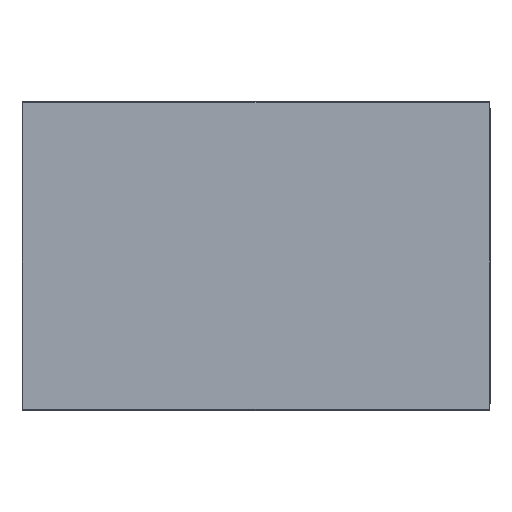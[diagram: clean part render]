
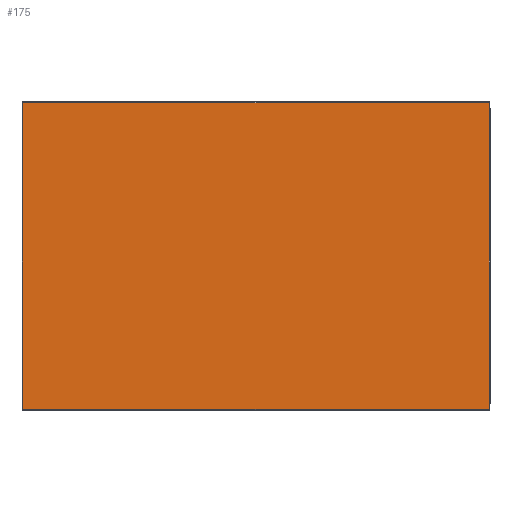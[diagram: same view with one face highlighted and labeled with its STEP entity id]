
A CAD part, top view. The second image highlights one B-rep face of the part: STEP entity #175.
In plain terms, the highlighted planar face has unit normal (0, 0, 1).
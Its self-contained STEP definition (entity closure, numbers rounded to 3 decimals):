
#107=AXIS2_PLACEMENT_3D('Plane Axis2P3D',#104,#105,#106) ;
#120=AXIS2_PLACEMENT_3D('Circle Axis2P3D',#118,#119,$) ;
#134=AXIS2_PLACEMENT_3D('Circle Axis2P3D',#132,#133,$) ;
#148=AXIS2_PLACEMENT_3D('Circle Axis2P3D',#146,#147,$) ;
#162=AXIS2_PLACEMENT_3D('Circle Axis2P3D',#160,#161,$) ;
#104=CARTESIAN_POINT('Axis2P3D Location',(0.,0.,4.)) ;
#109=CARTESIAN_POINT('Line Origine',(0.,-249.5,4.)) ;
#113=CARTESIAN_POINT('Vertex',(379.,-249.5,4.)) ;
#115=CARTESIAN_POINT('Vertex',(-379.,-249.5,4.)) ;
#118=CARTESIAN_POINT('Axis2P3D Location',(379.,-249.,4.)) ;
#122=CARTESIAN_POINT('Vertex',(379.5,-249.,4.)) ;
#125=CARTESIAN_POINT('Line Origine',(379.5,0.,4.)) ;
#129=CARTESIAN_POINT('Vertex',(379.5,249.,4.)) ;
#132=CARTESIAN_POINT('Axis2P3D Location',(379.,249.,4.)) ;
#136=CARTESIAN_POINT('Vertex',(379.,249.5,4.)) ;
#139=CARTESIAN_POINT('Line Origine',(0.,249.5,4.)) ;
#143=CARTESIAN_POINT('Vertex',(-379.,249.5,4.)) ;
#146=CARTESIAN_POINT('Axis2P3D Location',(-379.,249.,4.)) ;
#150=CARTESIAN_POINT('Vertex',(-379.5,249.,4.)) ;
#153=CARTESIAN_POINT('Line Origine',(-379.5,0.,4.)) ;
#157=CARTESIAN_POINT('Vertex',(-379.5,-249.,4.)) ;
#160=CARTESIAN_POINT('Axis2P3D Location',(-379.,-249.,4.)) ;
#105=DIRECTION('Axis2P3D Direction',(0.,0.,1.)) ;
#106=DIRECTION('Axis2P3D XDirection',(1.,0.,0.)) ;
#110=DIRECTION('Vector Direction',(-1.,0.,0.)) ;
#119=DIRECTION('Axis2P3D Direction',(0.,0.,1.)) ;
#126=DIRECTION('Vector Direction',(0.,1.,0.)) ;
#133=DIRECTION('Axis2P3D Direction',(0.,0.,1.)) ;
#140=DIRECTION('Vector Direction',(1.,0.,0.)) ;
#147=DIRECTION('Axis2P3D Direction',(0.,0.,1.)) ;
#154=DIRECTION('Vector Direction',(0.,-1.,0.)) ;
#161=DIRECTION('Axis2P3D Direction',(0.,0.,1.)) ;
#111=VECTOR('Line Direction',#110,1.) ;
#127=VECTOR('Line Direction',#126,1.) ;
#141=VECTOR('Line Direction',#140,1.) ;
#155=VECTOR('Line Direction',#154,1.) ;
#166=ORIENTED_EDGE('',*,*,#117,.F.) ;
#167=ORIENTED_EDGE('',*,*,#124,.T.) ;
#168=ORIENTED_EDGE('',*,*,#131,.T.) ;
#169=ORIENTED_EDGE('',*,*,#138,.T.) ;
#170=ORIENTED_EDGE('',*,*,#145,.F.) ;
#171=ORIENTED_EDGE('',*,*,#152,.T.) ;
#172=ORIENTED_EDGE('',*,*,#159,.T.) ;
#173=ORIENTED_EDGE('',*,*,#164,.T.) ;
#175=ADVANCED_FACE('Glas Kochfeld(fl\X2\00E4\X0\chenb\X2\00FC\X0\ndig)',(#174),#108,.T.) ;
#121=CIRCLE('generated circle',#120,0.5) ;
#135=CIRCLE('generated circle',#134,0.5) ;
#149=CIRCLE('generated circle',#148,0.5) ;
#163=CIRCLE('generated circle',#162,0.5) ;
#117=EDGE_CURVE('',#114,#116,#112,.T.) ;
#124=EDGE_CURVE('',#114,#123,#121,.T.) ;
#131=EDGE_CURVE('',#123,#130,#128,.T.) ;
#138=EDGE_CURVE('',#130,#137,#135,.T.) ;
#145=EDGE_CURVE('',#144,#137,#142,.T.) ;
#152=EDGE_CURVE('',#144,#151,#149,.T.) ;
#159=EDGE_CURVE('',#151,#158,#156,.T.) ;
#164=EDGE_CURVE('',#158,#116,#163,.T.) ;
#165=EDGE_LOOP('',(#166,#167,#168,#169,#170,#171,#172,#173)) ;
#174=FACE_OUTER_BOUND('',#165,.T.) ;
#112=LINE('Line',#109,#111) ;
#128=LINE('Line',#125,#127) ;
#142=LINE('Line',#139,#141) ;
#156=LINE('Line',#153,#155) ;
#108=PLANE('',#107) ;
#114=VERTEX_POINT('',#113) ;
#116=VERTEX_POINT('',#115) ;
#123=VERTEX_POINT('',#122) ;
#130=VERTEX_POINT('',#129) ;
#137=VERTEX_POINT('',#136) ;
#144=VERTEX_POINT('',#143) ;
#151=VERTEX_POINT('',#150) ;
#158=VERTEX_POINT('',#157) ;
